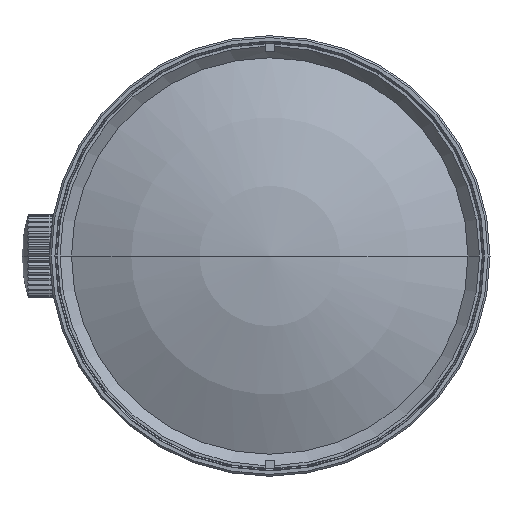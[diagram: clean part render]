
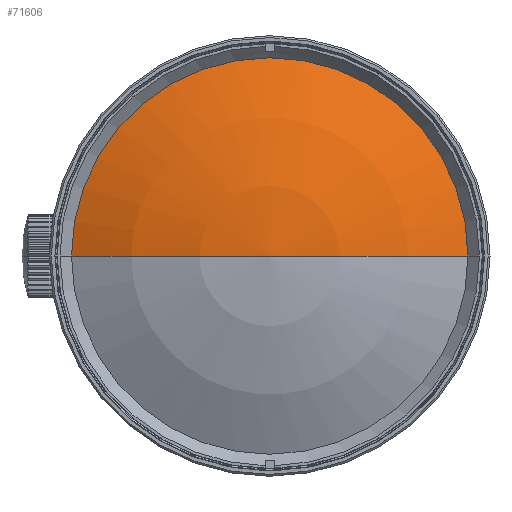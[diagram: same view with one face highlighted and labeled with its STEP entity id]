
A CAD part, left-side view. The second image highlights one B-rep face of the part: STEP entity #71606.
In plain terms, the highlighted spherical face has radius 48 mm.
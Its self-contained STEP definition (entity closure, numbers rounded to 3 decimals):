
#71513=CARTESIAN_POINT('',(5.416,0.,0.));
#71514=DIRECTION('',(1.,0.,0.));
#71515=DIRECTION('',(0.,1.,0.));
#71516=AXIS2_PLACEMENT_3D('',#71513,#71514,#71515);
#71531=CARTESIAN_POINT('',(48.,0.,0.));
#71532=DIRECTION('',(0.,0.,1.));
#71533=DIRECTION('',(-0.887,0.461,0.));
#71534=AXIS2_PLACEMENT_3D('',#71531,#71532,#71533);
#71536=CARTESIAN_POINT('',(48.,0.,0.));
#71537=DIRECTION('',(0.,0.,-1.));
#71538=DIRECTION('',(-0.887,-0.461,0.));
#71539=AXIS2_PLACEMENT_3D('',#71536,#71537,#71538);
#71577=CARTESIAN_POINT('',(5.416,22.15,0.));
#71578=CARTESIAN_POINT('',(5.416,-22.15,0.));
#71579=VERTEX_POINT('',#71577);
#71580=VERTEX_POINT('',#71578);
#71585=CARTESIAN_POINT('',(0.,0.,0.));
#71586=VERTEX_POINT('',#71585);
#71593=CARTESIAN_POINT('',(48.,0.,0.));
#71594=DIRECTION('',(1.,0.,0.));
#71595=DIRECTION('',(0.,-1.,0.));
#71596=AXIS2_PLACEMENT_3D('',#71593,#71594,#71595);
#71597=SPHERICAL_SURFACE('',#71596,48.);
#71599=ORIENTED_EDGE('',*,*,#71598,.T.);
#71601=ORIENTED_EDGE('',*,*,#71600,.T.);
#71603=ORIENTED_EDGE('',*,*,#71602,.F.);
#71604=EDGE_LOOP('',(#71599,#71601,#71603));
#71605=FACE_OUTER_BOUND('',#71604,.F.);
#71606=ADVANCED_FACE('',(#71605),#71597,.T.);
#71517=CIRCLE('',#71516,22.15);
#71535=CIRCLE('',#71534,48.);
#71540=CIRCLE('',#71539,48.);
#71598=EDGE_CURVE('',#71579,#71580,#71517,.T.);
#71600=EDGE_CURVE('',#71580,#71586,#71540,.T.);
#71602=EDGE_CURVE('',#71579,#71586,#71535,.T.);
